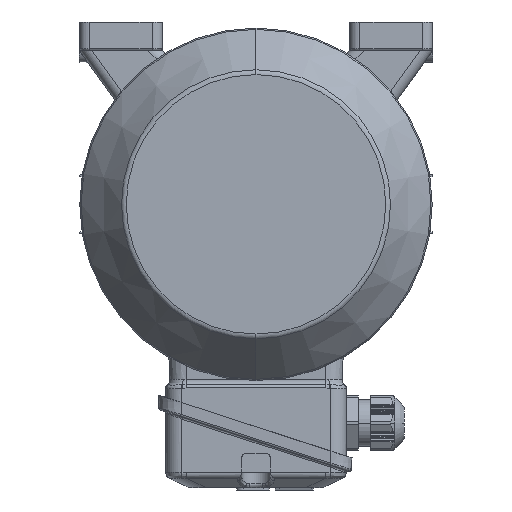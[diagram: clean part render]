
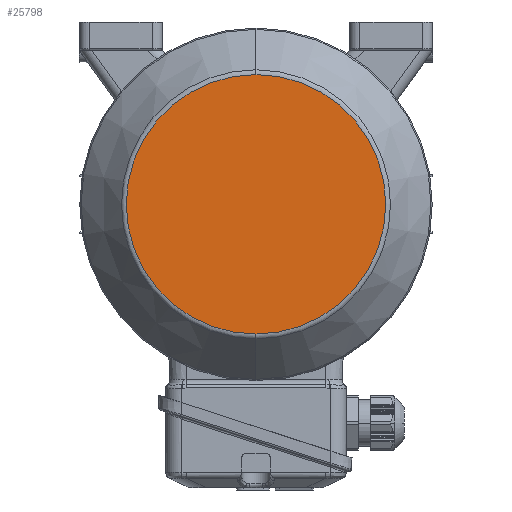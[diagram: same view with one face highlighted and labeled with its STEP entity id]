
A CAD part, left-side view. The second image highlights one B-rep face of the part: STEP entity #25798.
In plain terms, the highlighted planar face has unit normal (-1, 0, 0).
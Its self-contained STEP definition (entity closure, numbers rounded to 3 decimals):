
#1506 = CARTESIAN_POINT ( 'NONE',  ( -163.5, 0., 0. ) ) ;
#2431 = AXIS2_PLACEMENT_3D ( 'NONE', #1506, #17127, #5063 ) ;
#2702 = VERTEX_POINT ( 'NONE', #48026 ) ;
#5063 = DIRECTION ( 'NONE',  ( 0., 0., -1. ) ) ;
#9187 = VERTEX_POINT ( 'NONE', #49552 ) ;
#12684 = ORIENTED_EDGE ( 'NONE', *, *, #49401, .F. ) ;
#13902 = CIRCLE ( 'NONE', #38906, 64.037 ) ;
#14032 = DIRECTION ( 'NONE',  ( 0., 1., 0. ) ) ;
#16667 = DIRECTION ( 'NONE',  ( 1., 0., 0. ) ) ;
#17127 = DIRECTION ( 'NONE',  ( 1., 0., 0. ) ) ;
#18096 = PLANE ( 'NONE',  #39005 ) ;
#22099 = EDGE_CURVE ( 'NONE', #2702, #9187, #13902, .T. ) ;
#24313 = CIRCLE ( 'NONE', #2431, 64.037 ) ;
#25725 = FACE_OUTER_BOUND ( 'NONE', #51417, .T. ) ;
#25798 = ADVANCED_FACE ( 'NONE', ( #25725 ), #18096, .T. ) ;
#29125 = DIRECTION ( 'NONE',  ( 0., 0., -1. ) ) ;
#38906 = AXIS2_PLACEMENT_3D ( 'NONE', #41035, #16667, #29125 ) ;
#39005 = AXIS2_PLACEMENT_3D ( 'NONE', #46564, #45509, #14032 ) ;
#41035 = CARTESIAN_POINT ( 'NONE',  ( -163.5, 0., 0. ) ) ;
#45509 = DIRECTION ( 'NONE',  ( -1., 0., 0. ) ) ;
#46564 = CARTESIAN_POINT ( 'NONE',  ( -163.5, 0., -64.037 ) ) ;
#48026 = CARTESIAN_POINT ( 'NONE',  ( -163.5, 0., 64.037 ) ) ;
#49401 = EDGE_CURVE ( 'NONE', #9187, #2702, #24313, .T. ) ;
#49552 = CARTESIAN_POINT ( 'NONE',  ( -163.5, 0., -64.037 ) ) ;
#50852 = ORIENTED_EDGE ( 'NONE', *, *, #22099, .F. ) ;
#51417 = EDGE_LOOP ( 'NONE', ( #12684, #50852 ) ) ;
